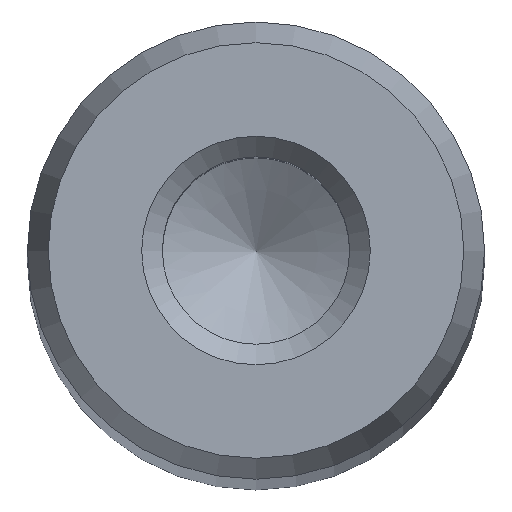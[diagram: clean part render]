
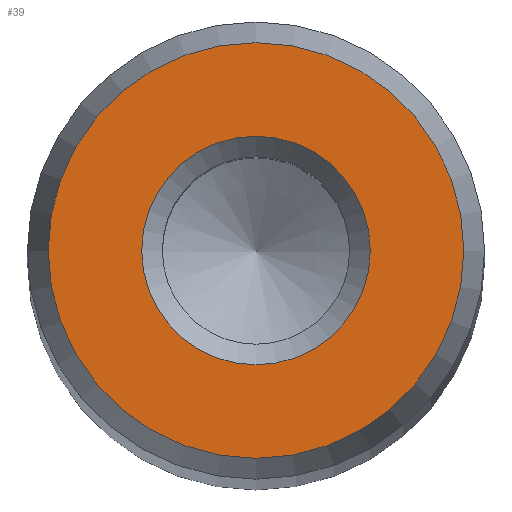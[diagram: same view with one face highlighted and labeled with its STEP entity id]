
A CAD part, top view. The second image highlights one B-rep face of the part: STEP entity #39.
In plain terms, the highlighted planar face has unit normal (0, 0, 1).
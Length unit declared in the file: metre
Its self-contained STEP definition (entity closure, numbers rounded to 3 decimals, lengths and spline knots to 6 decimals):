
#39 = ADVANCED_FACE( '', ( #84, #85 ), #86, .T. );
#84 = FACE_OUTER_BOUND( '', #143, .T. );
#85 = FACE_BOUND( '', #144, .T. );
#86 = PLANE( '', #145 );
#143 = EDGE_LOOP( '', ( #198 ) );
#144 = EDGE_LOOP( '', ( #199 ) );
#145 = AXIS2_PLACEMENT_3D( '', #200, #201, #202 );
#198 = ORIENTED_EDGE( '', *, *, #273, .T. );
#199 = ORIENTED_EDGE( '', *, *, #274, .T. );
#200 = CARTESIAN_POINT( '', ( 0., 0., 0.164 ) );
#201 = DIRECTION( '', ( 0., 0., 1. ) );
#202 = DIRECTION( '', ( 1., 0., 0. ) );
#273 = EDGE_CURVE( '', #300, #300, #301, .T. );
#274 = EDGE_CURVE( '', #302, #302, #303, .T. );
#300 = VERTEX_POINT( '', #337 );
#301 = CIRCLE( '', #338, 0.005454 );
#302 = VERTEX_POINT( '', #339 );
#303 = CIRCLE( '', #340, 0.003 );
#337 = CARTESIAN_POINT( '', ( 0.005454, 0., 0.164 ) );
#338 = AXIS2_PLACEMENT_3D( '', #373, #374, #375 );
#339 = CARTESIAN_POINT( '', ( 0.003, 0., 0.164 ) );
#340 = AXIS2_PLACEMENT_3D( '', #376, #377, #378 );
#373 = CARTESIAN_POINT( '', ( 0., 0., 0.164 ) );
#374 = DIRECTION( '', ( 0., 0., 1. ) );
#375 = DIRECTION( '', ( 1., 0., 0. ) );
#376 = CARTESIAN_POINT( '', ( 0., 0., 0.164 ) );
#377 = DIRECTION( '', ( 0., 0., -1. ) );
#378 = DIRECTION( '', ( 1., 0., 0. ) );
